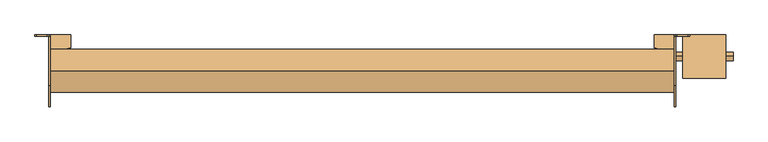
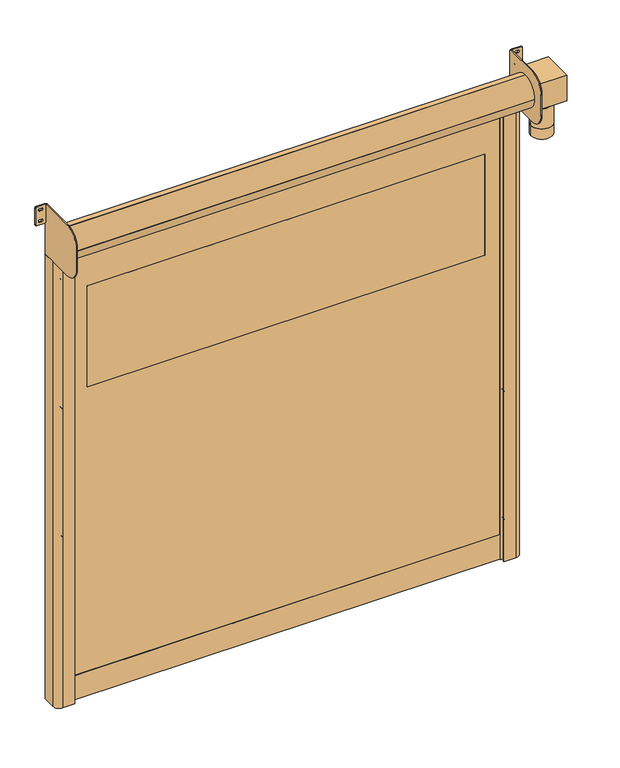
"""IFC4 building model written with IfcOpenShell, lengths in millimetres: door geometry, DO_WPB_Dynamicroll_BMP : Dynamicroll One."""

from ifc_helpers import new_model, si_unit, point, frame, frame_2d, origin, origin_with_axes, place, context, project, spatial, polyline, circle_curve, trimmed, segment, composite_curve, outline, extrude, source, transform, mapped, element, save
from ifc_brep_helpers import plane_surface, cylinder_surface, advanced_brep


def door_f3b390bc(model_context):
    return source(origin(), model_context, "Body", "SolidModel", [
        extrude(outline(composite_curve([segment(trimmed(circle_curve(frame_2d((1416.6666667, 1024.0)), 6.0), [point((1422.6666667, 1024.0))], [point((1410.6666667, 1024.0))], False, "CARTESIAN"), True, "CONTINUOUS"), segment(polyline([(1410.6666667, 1024.0), (1410.6666667, 1042.0)]), True, "CONTINUOUS"), segment(trimmed(circle_curve(frame_2d((1416.6666667, 1042.0)), 6.0), [point((1410.6666667, 1042.0))], [point((1422.6666667, 1042.0))], False, "CARTESIAN"), True, "CONTINUOUS"), segment(polyline([(1422.6666667, 1042.0), (1422.6666667, 1024.0)]), True, "CONTINUOUS")], self_intersect=False)), frame((0.0, -20.0, 0.0), z_axis=(0.0, 1.0, 0.0), x_axis=(0.0, 0.0, 1.0)), (0.0, 0.0, 1.0), 20.0),
        extrude(outline(composite_curve([segment(trimmed(circle_curve(frame_2d((783.3333333, 1024.0)), 6.0), [point((789.3333333, 1024.0))], [point((777.3333333, 1024.0))], False, "CARTESIAN"), True, "CONTINUOUS"), segment(polyline([(777.3333333, 1024.0), (777.3333333, 1042.0)]), True, "CONTINUOUS"), segment(trimmed(circle_curve(frame_2d((783.3333333, 1042.0)), 6.0), [point((777.3333333, 1042.0))], [point((789.3333333, 1042.0))], False, "CARTESIAN"), True, "CONTINUOUS"), segment(polyline([(789.3333333, 1042.0), (789.3333333, 1024.0)]), True, "CONTINUOUS")], self_intersect=False)), frame((0.0, -20.0, 0.0), z_axis=(0.0, 1.0, 0.0), x_axis=(0.0, 0.0, 1.0)), (0.0, 0.0, 1.0), 20.0),
        extrude(outline(composite_curve([segment(trimmed(circle_curve(frame_2d((2050.0, 1024.0)), 6.0), [point((2056.0, 1024.0))], [point((2044.0, 1024.0))], False, "CARTESIAN"), True, "CONTINUOUS"), segment(polyline([(2044.0, 1024.0), (2044.0, 1042.0)]), True, "CONTINUOUS"), segment(trimmed(circle_curve(frame_2d((2050.0, 1042.0)), 6.0), [point((2044.0, 1042.0))], [point((2056.0, 1042.0))], False, "CARTESIAN"), True, "CONTINUOUS"), segment(polyline([(2056.0, 1042.0), (2056.0, 1024.0)]), True, "CONTINUOUS")], self_intersect=False)), frame((0.0, -20.0, 0.0), z_axis=(0.0, 1.0, 0.0), x_axis=(0.0, 0.0, 1.0)), (0.0, 0.0, 1.0), 20.0),
        extrude(outline(composite_curve([segment(trimmed(circle_curve(frame_2d((150.0, 1024.0)), 6.0), [point((156.0, 1024.0))], [point((144.0, 1024.0))], False, "CARTESIAN"), True, "CONTINUOUS"), segment(polyline([(144.0, 1024.0), (144.0, 1042.0)]), True, "CONTINUOUS"), segment(trimmed(circle_curve(frame_2d((150.0, 1042.0)), 6.0), [point((144.0, 1042.0))], [point((156.0, 1042.0))], False, "CARTESIAN"), True, "CONTINUOUS"), segment(polyline([(156.0, 1042.0), (156.0, 1024.0)]), True, "CONTINUOUS")], self_intersect=False)), frame((0.0, -20.0, 0.0), z_axis=(0.0, 1.0, 0.0), x_axis=(0.0, 0.0, 1.0)), (0.0, 0.0, 1.0), 20.0),
        extrude(outline(composite_curve([segment(polyline([(1422.6666667, -1024.0), (1422.6666667, -1042.0)]), True, "CONTINUOUS"), segment(trimmed(circle_curve(frame_2d((1416.6666667, -1042.0)), 6.0), [point((1422.6666667, -1042.0))], [point((1410.6666667, -1042.0))], False, "CARTESIAN"), True, "CONTINUOUS"), segment(polyline([(1410.6666667, -1042.0), (1410.6666667, -1024.0)]), True, "CONTINUOUS"), segment(trimmed(circle_curve(frame_2d((1416.6666667, -1024.0)), 6.0), [point((1410.6666667, -1024.0))], [point((1422.6666667, -1024.0))], False, "CARTESIAN"), True, "CONTINUOUS")], self_intersect=False)), frame((0.0, -20.0, 0.0), z_axis=(0.0, 1.0, 0.0), x_axis=(0.0, 0.0, 1.0)), (0.0, 0.0, 1.0), 20.0),
        extrude(outline(composite_curve([segment(polyline([(789.3333333, -1024.0), (789.3333333, -1042.0)]), True, "CONTINUOUS"), segment(trimmed(circle_curve(frame_2d((783.3333333, -1042.0)), 6.0), [point((789.3333333, -1042.0))], [point((777.3333333, -1042.0))], False, "CARTESIAN"), True, "CONTINUOUS"), segment(polyline([(777.3333333, -1042.0), (777.3333333, -1024.0)]), True, "CONTINUOUS"), segment(trimmed(circle_curve(frame_2d((783.3333333, -1024.0)), 6.0), [point((777.3333333, -1024.0))], [point((789.3333333, -1024.0))], False, "CARTESIAN"), True, "CONTINUOUS")], self_intersect=False)), frame((0.0, -20.0, 0.0), z_axis=(0.0, 1.0, 0.0), x_axis=(0.0, 0.0, 1.0)), (0.0, 0.0, 1.0), 20.0),
        extrude(outline(composite_curve([segment(polyline([(2056.0, -1024.0), (2056.0, -1042.0)]), True, "CONTINUOUS"), segment(trimmed(circle_curve(frame_2d((2050.0, -1042.0)), 6.0), [point((2056.0, -1042.0))], [point((2044.0, -1042.0))], False, "CARTESIAN"), True, "CONTINUOUS"), segment(polyline([(2044.0, -1042.0), (2044.0, -1024.0)]), True, "CONTINUOUS"), segment(trimmed(circle_curve(frame_2d((2050.0, -1024.0)), 6.0), [point((2044.0, -1024.0))], [point((2056.0, -1024.0))], False, "CARTESIAN"), True, "CONTINUOUS")], self_intersect=False)), frame((0.0, -20.0, 0.0), z_axis=(0.0, 1.0, 0.0), x_axis=(0.0, 0.0, 1.0)), (0.0, 0.0, 1.0), 20.0),
        extrude(outline(composite_curve([segment(polyline([(156.0, -1024.0), (156.0, -1042.0)]), True, "CONTINUOUS"), segment(trimmed(circle_curve(frame_2d((150.0, -1042.0)), 6.0), [point((156.0, -1042.0))], [point((144.0, -1042.0))], False, "CARTESIAN"), True, "CONTINUOUS"), segment(polyline([(144.0, -1042.0), (144.0, -1024.0)]), True, "CONTINUOUS"), segment(trimmed(circle_curve(frame_2d((150.0, -1024.0)), 6.0), [point((144.0, -1024.0))], [point((156.0, -1024.0))], False, "CARTESIAN"), True, "CONTINUOUS")], self_intersect=False)), frame((0.0, -20.0, 0.0), z_axis=(0.0, 1.0, 0.0), x_axis=(0.0, 0.0, 1.0)), (0.0, 0.0, 1.0), 20.0),
        extrude(outline(composite_curve([segment(trimmed(circle_curve(frame_2d((1526.0, 929.0)), 1.0), [point((1525.0, 929.0))], [point((1526.0, 930.0))], False, "CARTESIAN"), True, "CONTINUOUS"), segment(polyline([(1526.0, 930.0), (2024.0, 930.0)]), True, "CONTINUOUS"), segment(trimmed(circle_curve(frame_2d((2024.0, 929.0)), 1.0), [point((2024.0, 930.0))], [point((2025.0, 929.0))], False, "CARTESIAN"), True, "CONTINUOUS"), segment(polyline([(2025.0, 929.0), (2025.0, -929.0)]), True, "CONTINUOUS"), segment(trimmed(circle_curve(frame_2d((2024.0, -929.0)), 1.0), [point((2025.0, -929.0))], [point((2024.0, -930.0))], False, "CARTESIAN"), True, "CONTINUOUS"), segment(polyline([(2024.0, -930.0), (1526.0, -930.0)]), True, "CONTINUOUS"), segment(trimmed(circle_curve(frame_2d((1526.0, -929.0)), 1.0), [point((1526.0, -930.0))], [point((1525.0, -929.0))], False, "CARTESIAN"), True, "CONTINUOUS"), segment(polyline([(1525.0, -929.0), (1525.0, 929.0)]), True, "CONTINUOUS")], self_intersect=False)), frame((0.0, -63.5, 0.0), z_axis=(0.0, 1.0, 0.0), x_axis=(0.0, 0.0, 1.0)), (0.0, 0.0, 1.0), 7.0),
        extrude(outline(polyline([(120.0, -1012.0), (120.0, 1012.0), (2325.0, 1012.0), (2325.0, -1012.0), (120.0, -1012.0)]), holes=[composite_curve([segment(trimmed(circle_curve(frame_2d((1526.0, 929.0)), 1.0), [point((1526.0, 930.0))], [point((1525.0, 929.0))], True, "CARTESIAN"), True, "CONTINUOUS"), segment(polyline([(1525.0, 929.0), (1525.0, -929.0)]), True, "CONTINUOUS"), segment(trimmed(circle_curve(frame_2d((1526.0, -929.0)), 1.0), [point((1525.0, -929.0))], [point((1526.0, -930.0))], True, "CARTESIAN"), True, "CONTINUOUS"), segment(polyline([(1526.0, -930.0), (2024.0, -930.0)]), True, "CONTINUOUS"), segment(trimmed(circle_curve(frame_2d((2024.0, -929.0)), 1.0), [point((2024.0, -930.0))], [point((2025.0, -929.0))], True, "CARTESIAN"), True, "CONTINUOUS"), segment(polyline([(2025.0, -929.0), (2025.0, 929.0)]), True, "CONTINUOUS"), segment(trimmed(circle_curve(frame_2d((2024.0, 929.0)), 1.0), [point((2025.0, 929.0))], [point((2024.0, 930.0))], True, "CARTESIAN"), True, "CONTINUOUS"), segment(polyline([(2024.0, 930.0), (1526.0, 930.0)]), True, "CONTINUOUS")], self_intersect=False)]), frame((0.0, -63.5, 0.0), z_axis=(0.0, 1.0, 0.0), x_axis=(0.0, 0.0, 1.0)), (0.0, 0.0, 1.0), 7.0),
        extrude(outline(polyline([(-1012.0, -54.5), (1012.0, -54.5), (1012.0, -65.5), (-1012.0, -65.5), (-1012.0, -54.5)])), origin_with_axes(), (0.0, 0.0, 1.0), 120.0),
        extrude(outline(composite_curve([segment(trimmed(circle_curve(frame_2d((2363.75, 1095.75)), 5.75), [point((2363.75, 1090.0))], [point((2358.0, 1095.75))], False, "CARTESIAN"), True, "CONTINUOUS"), segment(polyline([(2358.0, 1095.75), (2358.0, 1133.25)]), True, "CONTINUOUS"), segment(trimmed(circle_curve(frame_2d((2363.75, 1133.25)), 5.75), [point((2358.0, 1133.25))], [point((2363.75, 1139.0))], False, "CARTESIAN"), True, "CONTINUOUS"), segment(polyline([(2363.75, 1139.0), (2444.25, 1139.0)]), True, "CONTINUOUS"), segment(trimmed(circle_curve(frame_2d((2444.25, 1133.25)), 5.75), [point((2444.25, 1139.0))], [point((2450.0, 1133.25))], False, "CARTESIAN"), True, "CONTINUOUS"), segment(polyline([(2450.0, 1133.25), (2450.0, 1095.75)]), True, "CONTINUOUS"), segment(trimmed(circle_curve(frame_2d((2444.25, 1095.75)), 5.75), [point((2450.0, 1095.75))], [point((2444.25, 1090.0))], False, "CARTESIAN"), True, "CONTINUOUS"), segment(polyline([(2444.25, 1090.0), (2363.75, 1090.0)]), True, "CONTINUOUS")], self_intersect=False), holes=[composite_curve([segment(trimmed(circle_curve(frame_2d((2431.5, 1118.75)), 5.75), [point((2437.25, 1118.75))], [point((2425.75, 1118.75))], True, "CARTESIAN"), True, "CONTINUOUS"), segment(polyline([(2425.75, 1118.75), (2425.75, 1110.25)]), True, "CONTINUOUS"), segment(trimmed(circle_curve(frame_2d((2431.5, 1110.25)), 5.75), [point((2425.75, 1110.25))], [point((2437.25, 1110.25))], True, "CARTESIAN"), True, "CONTINUOUS"), segment(polyline([(2437.25, 1110.25), (2437.25, 1118.75)]), True, "CONTINUOUS")], self_intersect=False), composite_curve([segment(trimmed(circle_curve(frame_2d((2376.5, 1118.75)), 5.75), [point((2382.25, 1118.75))], [point((2370.75, 1118.75))], True, "CARTESIAN"), True, "CONTINUOUS"), segment(polyline([(2370.75, 1118.75), (2370.75, 1110.25)]), True, "CONTINUOUS"), segment(trimmed(circle_curve(frame_2d((2376.5, 1110.25)), 5.75), [point((2370.75, 1110.25))], [point((2382.25, 1110.25))], True, "CARTESIAN"), True, "CONTINUOUS"), segment(polyline([(2382.25, 1110.25), (2382.25, 1118.75)]), True, "CONTINUOUS")], self_intersect=False)]), frame((0.0, -5.0, 0.0), z_axis=(0.0, 1.0, 0.0), x_axis=(0.0, 0.0, 1.0)), (0.0, 0.0, 1.0), 5.0),
        extrude(outline(composite_curve([segment(trimmed(circle_curve(frame_2d((2363.75, -1133.25)), 5.75), [point((2363.75, -1139.0))], [point((2358.0, -1133.25))], False, "CARTESIAN"), True, "CONTINUOUS"), segment(polyline([(2358.0, -1133.25), (2358.0, -1095.75)]), True, "CONTINUOUS"), segment(trimmed(circle_curve(frame_2d((2363.75, -1095.75)), 5.75), [point((2358.0, -1095.75))], [point((2363.75, -1090.0))], False, "CARTESIAN"), True, "CONTINUOUS"), segment(polyline([(2363.75, -1090.0), (2444.25, -1090.0)]), True, "CONTINUOUS"), segment(trimmed(circle_curve(frame_2d((2444.25, -1095.75)), 5.75), [point((2444.25, -1090.0))], [point((2450.0, -1095.75))], False, "CARTESIAN"), True, "CONTINUOUS"), segment(polyline([(2450.0, -1095.75), (2450.0, -1133.25)]), True, "CONTINUOUS"), segment(trimmed(circle_curve(frame_2d((2444.25, -1133.25)), 5.75), [point((2450.0, -1133.25))], [point((2444.25, -1139.0))], False, "CARTESIAN"), True, "CONTINUOUS"), segment(polyline([(2444.25, -1139.0), (2363.75, -1139.0)]), True, "CONTINUOUS")], self_intersect=False), holes=[composite_curve([segment(trimmed(circle_curve(frame_2d((2431.5, -1110.25)), 5.75), [point((2437.25, -1110.25))], [point((2425.75, -1110.25))], True, "CARTESIAN"), True, "CONTINUOUS"), segment(polyline([(2425.75, -1110.25), (2425.75, -1118.75)]), True, "CONTINUOUS"), segment(trimmed(circle_curve(frame_2d((2431.5, -1118.75)), 5.75), [point((2425.75, -1118.75))], [point((2437.25, -1118.75))], True, "CARTESIAN"), True, "CONTINUOUS"), segment(polyline([(2437.25, -1118.75), (2437.25, -1110.25)]), True, "CONTINUOUS")], self_intersect=False), composite_curve([segment(trimmed(circle_curve(frame_2d((2376.5, -1110.25)), 5.75), [point((2382.25, -1110.25))], [point((2370.75, -1110.25))], True, "CARTESIAN"), True, "CONTINUOUS"), segment(polyline([(2370.75, -1110.25), (2370.75, -1118.75)]), True, "CONTINUOUS"), segment(trimmed(circle_curve(frame_2d((2376.5, -1118.75)), 5.75), [point((2370.75, -1118.75))], [point((2382.25, -1118.75))], True, "CARTESIAN"), True, "CONTINUOUS"), segment(polyline([(2382.25, -1118.75), (2382.25, -1110.25)]), True, "CONTINUOUS")], self_intersect=False)]), frame((0.0, -5.0, 0.0), z_axis=(0.0, 1.0, 0.0), x_axis=(0.0, 0.0, 1.0)), (0.0, 0.0, 1.0), 5.0),
        extrude(outline(composite_curve([segment(trimmed(circle_curve(frame_2d((1190.0, -75.0)), 37.5), [point((1227.5, -75.0))], [point((1152.5, -75.0))], False, "CARTESIAN"), True, "CONTINUOUS"), segment(trimmed(circle_curve(frame_2d((1190.0, -75.0)), 37.5), [point((1152.5, -75.0))], [point((1227.5, -75.0))], False, "CARTESIAN"), True, "CONTINUOUS")], self_intersect=False)), frame((0.0, 0.0, 2200.0), z_axis=(0.0, 0.0, 1.0), x_axis=(1.0, 0.0, 0.0)), (0.0, 0.0, 1.0), 25.0),
        extrude(outline(composite_curve([segment(trimmed(circle_curve(frame_2d((1190.0, -75.0)), 50.0), [point((1240.0, -75.0))], [point((1140.0, -75.0))], False, "CARTESIAN"), True, "CONTINUOUS"), segment(trimmed(circle_curve(frame_2d((1190.0, -75.0)), 50.0), [point((1140.0, -75.0))], [point((1240.0, -75.0))], False, "CARTESIAN"), True, "CONTINUOUS")], self_intersect=False)), frame((0.0, 0.0, 2100.0), z_axis=(0.0, 0.0, 1.0), x_axis=(1.0, 0.0, 0.0)), (0.0, 0.0, 1.0), 100.0),
        extrude(outline(composite_curve([segment(trimmed(circle_curve(frame_2d((1190.0, -75.0)), 50.0), [point((1240.0, -75.0))], [point((1140.0, -75.0))], False, "CARTESIAN"), True, "CONTINUOUS"), segment(trimmed(circle_curve(frame_2d((1190.0, -75.0)), 50.0), [point((1140.0, -75.0))], [point((1240.0, -75.0))], False, "CARTESIAN"), True, "CONTINUOUS")], self_intersect=False)), frame((0.0, 0.0, 2050.0), z_axis=(0.0, 0.0, 1.0), x_axis=(1.0, 0.0, 0.0)), (0.0, 0.0, 1.0), 50.0),
        extrude(outline(composite_curve([segment(polyline([(-1090.0, 0.0), (-1015.0, 0.0), (-1015.0, -44.2857143), (-1035.0, -50.0), (-1000.0, -50.0), (-1000.0, -56.5), (-1020.0, -56.5), (-1020.0, -63.5), (-1000.0, -63.5), (-1000.0, -70.0), (-1035.0, -70.0), (-1035.0, -85.0), (-1005.0, -85.0), (-1005.0, -90.0), (-1060.0, -90.0)]), True, "CONTINUOUS"), segment(trimmed(circle_curve(frame_2d((-1060.0, -60.0)), 30.0), [point((-1060.0, -90.0))], [point((-1090.0, -60.0))], False, "CARTESIAN"), True, "CONTINUOUS"), segment(polyline([(-1090.0, -60.0), (-1090.0, 0.0)]), True, "CONTINUOUS")], self_intersect=False)), origin_with_axes(), (0.0, 0.0, 1.0), 2200.0),
        extrude(outline(composite_curve([segment(polyline([(1090.0, 0.0), (1090.0, -60.0)]), True, "CONTINUOUS"), segment(trimmed(circle_curve(frame_2d((1060.0, -60.0)), 30.0), [point((1090.0, -60.0))], [point((1060.0, -90.0))], False, "CARTESIAN"), True, "CONTINUOUS"), segment(polyline([(1060.0, -90.0), (1005.0, -90.0), (1005.0, -85.0), (1035.0, -85.0), (1035.0, -70.0), (1000.0, -70.0), (1000.0, -63.5), (1020.0, -63.5), (1020.0, -56.5), (1000.0, -56.5), (1000.0, -50.0), (1035.0, -50.0), (1015.0, -44.2857143), (1015.0, 0.0), (1090.0, 0.0)]), True, "CONTINUOUS")], self_intersect=False)), origin_with_axes(), (0.0, 0.0, 1.0), 2200.0),
        advanced_brep(
        [(1115.0, -150.0, 2350.0), (1265.0, -150.0, 2350.0), (1265.0, 0.0, 2350.0), (1115.0, 0.0, 2350.0), (1115.0, -150.0, 2225.0), (1265.0, -150.0, 2225.0), (1265.0, 0.0, 2225.0), (1265.0, -75.0, 2272.5), (1265.0, -75.0, 2302.5), (1115.0, 0.0, 2225.0), (1115.0, -75.0, 2302.5), (1115.0, -75.0, 2272.5), (1090.0, -75.0, 2272.5), (1090.0, -75.0, 2302.5), (1290.0, -75.0, 2272.5), (1290.0, -75.0, 2302.5)],
        [
            (0, 1),
            (1, 2),
            (2, 3),
            (3, 0),
            (4, 5),
            (5, 1),
            (0, 4),
            (5, 6),
            (6, 2),
            (7, 8, circle_curve(frame((1265.0, -75.0, 2287.5), z_axis=(-1.0, 0.0, 0.0), x_axis=(0.0, 0.0, 1.0)), 15.0)),
            (8, 7, circle_curve(frame((1265.0, -75.0, 2287.5), z_axis=(-1.0, 0.0, 0.0), x_axis=(0.0, 0.0, 1.0)), 15.0)),
            (6, 9),
            (9, 3),
            (9, 4),
            (10, 11, circle_curve(frame((1115.0, -75.0, 2287.5), z_axis=(1.0, 0.0, 0.0), x_axis=(0.0, 0.0, 1.0)), 15.0)),
            (11, 10, circle_curve(frame((1115.0, -75.0, 2287.5), z_axis=(1.0, 0.0, 0.0), x_axis=(0.0, 0.0, 1.0)), 15.0)),
            (12, 13, circle_curve(frame((1090.0, -75.0, 2287.5), z_axis=(-1.0, 0.0, 0.0), x_axis=(0.0, 0.0, 1.0)), 15.0)),
            (13, 12, circle_curve(frame((1090.0, -75.0, 2287.5), z_axis=(-1.0, 0.0, 0.0), x_axis=(0.0, 0.0, 1.0)), 15.0)),
            (12, 11),
            (10, 13),
            (14, 15, circle_curve(frame((1290.0, -75.0, 2287.5), z_axis=(-1.0, 0.0, 0.0), x_axis=(0.0, 0.0, 1.0)), 15.0)),
            (15, 8),
            (7, 14),
            (15, 14, circle_curve(frame((1290.0, -75.0, 2287.5), z_axis=(-1.0, 0.0, 0.0), x_axis=(0.0, 0.0, 1.0)), 15.0)),
        ],
        [
            plane_surface(frame((1190.0, 0.0, 2350.0), z_axis=(0.0, 0.0, 1.0), x_axis=(0.0, -1.0, 0.0))),
            plane_surface(frame((1265.0, -150.0, 2225.0), z_axis=(0.0, -1.0, 0.0), x_axis=(0.0, 0.0, 1.0))),
            plane_surface(frame((1265.0, 0.0, 2225.0), z_axis=(1.0, 0.0, 0.0), x_axis=(0.0, 0.0, 1.0))),
            plane_surface(frame((1115.0, 0.0, 2225.0), z_axis=(0.0, 1.0, 0.0), x_axis=(0.0, 0.0, 1.0))),
            plane_surface(frame((1115.0, -150.0, 2225.0), z_axis=(-1.0, 0.0, 0.0), x_axis=(0.0, 0.0, 1.0))),
            plane_surface(frame((1190.0, 0.0, 2225.0), z_axis=(0.0, 0.0, -1.0), x_axis=(0.0, -1.0, 0.0))),
            plane_surface(frame((1090.0, 0.0, 2287.5), z_axis=(-1.0, 0.0, 0.0), x_axis=(0.0, -1.0, 0.0))),
            cylinder_surface(frame((1090.0, -75.0, 2287.5), z_axis=(-1.0, 0.0, 0.0), x_axis=(0.0, 0.0, 1.0)), 15.0),
            plane_surface(frame((1290.0, 0.0, 2287.5), z_axis=(1.0, 0.0, 0.0), x_axis=(0.0, -1.0, 0.0))),
        ],
        [
            (0, [[1, 2, 3, 4]]),
            (1, [[5, 6, -1, 7]]),
            (2, [[8, 9, -2, -6], [10, 11]]),
            (3, [[12, 13, -3, -9]]),
            (4, [[14, -7, -4, -13], [15, 16]]),
            (5, [[-14, -12, -8, -5]]),
            (6, [[17, 18]]),
            (7, [[-17, 19, -15, 20]]),
            (7, [[21, 22, -10, 23]]),
            (7, [[-18, -20, -16, -19]]),
            (7, [[24, -23, -11, -22]]),
            (8, [[-24, -21]]),
        ],
    ),
        extrude(outline(composite_curve([segment(trimmed(circle_curve(frame_2d((-5.0, 2205.0)), 5.0), [point((0.0, 2205.0))], [point((-5.0, 2200.0))], False, "CARTESIAN"), True, "CONTINUOUS"), segment(polyline([(-5.0, 2200.0), (-175.0, 2200.0)]), True, "CONTINUOUS"), segment(trimmed(circle_curve(frame_2d((-175.0, 2275.0)), 75.0), [point((-175.0, 2200.0))], [point((-250.0, 2275.0))], False, "CARTESIAN"), True, "CONTINUOUS"), segment(polyline([(-250.0, 2275.0), (-250.0, 2375.0)]), True, "CONTINUOUS"), segment(trimmed(circle_curve(frame_2d((-175.0, 2375.0)), 75.0), [point((-250.0, 2375.0))], [point((-175.0, 2450.0))], False, "CARTESIAN"), True, "CONTINUOUS"), segment(polyline([(-175.0, 2450.0), (-5.0, 2450.0)]), True, "CONTINUOUS"), segment(trimmed(circle_curve(frame_2d((-5.0, 2445.0)), 5.0), [point((-5.0, 2450.0))], [point((0.0, 2445.0))], False, "CARTESIAN"), True, "CONTINUOUS"), segment(polyline([(0.0, 2445.0), (0.0, 2205.0)]), True, "CONTINUOUS")], self_intersect=False)), frame((1085.0, 0.0, 0.0), z_axis=(1.0, 0.0, 0.0), x_axis=(0.0, 1.0, 0.0)), (0.0, 0.0, 1.0), 5.0),
        extrude(outline(composite_curve([segment(trimmed(circle_curve(frame_2d((-124.0, 2324.0)), 74.0), [point((-50.0, 2324.0))], [point((-124.0, 2250.0))], False, "CARTESIAN"), True, "CONTINUOUS"), segment(polyline([(-124.0, 2250.0), (-126.0, 2250.0)]), True, "CONTINUOUS"), segment(trimmed(circle_curve(frame_2d((-126.0, 2324.0)), 74.0), [point((-126.0, 2250.0))], [point((-200.0, 2324.0))], False, "CARTESIAN"), True, "CONTINUOUS"), segment(polyline([(-200.0, 2324.0), (-200.0, 2326.0)]), True, "CONTINUOUS"), segment(trimmed(circle_curve(frame_2d((-126.0, 2326.0)), 74.0), [point((-200.0, 2326.0))], [point((-126.0, 2400.0))], False, "CARTESIAN"), True, "CONTINUOUS"), segment(polyline([(-126.0, 2400.0), (-124.0, 2400.0)]), True, "CONTINUOUS"), segment(trimmed(circle_curve(frame_2d((-124.0, 2326.0)), 74.0), [point((-124.0, 2400.0))], [point((-50.0, 2326.0))], False, "CARTESIAN"), True, "CONTINUOUS"), segment(polyline([(-50.0, 2326.0), (-50.0, 2324.0)]), True, "CONTINUOUS")], self_intersect=False)), frame((-1085.0, 0.0, 0.0), z_axis=(1.0, 0.0, 0.0), x_axis=(0.0, 1.0, 0.0)), (0.0, 0.0, 1.0), 2170.0),
        extrude(outline(composite_curve([segment(trimmed(circle_curve(frame_2d((-5.0, 2205.0)), 5.0), [point((0.0, 2205.0))], [point((-5.0, 2200.0))], False, "CARTESIAN"), True, "CONTINUOUS"), segment(polyline([(-5.0, 2200.0), (-175.0, 2200.0)]), True, "CONTINUOUS"), segment(trimmed(circle_curve(frame_2d((-175.0, 2275.0)), 75.0), [point((-175.0, 2200.0))], [point((-250.0, 2275.0))], False, "CARTESIAN"), True, "CONTINUOUS"), segment(polyline([(-250.0, 2275.0), (-250.0, 2375.0)]), True, "CONTINUOUS"), segment(trimmed(circle_curve(frame_2d((-175.0, 2375.0)), 75.0), [point((-250.0, 2375.0))], [point((-175.0, 2450.0))], False, "CARTESIAN"), True, "CONTINUOUS"), segment(polyline([(-175.0, 2450.0), (-5.0, 2450.0)]), True, "CONTINUOUS"), segment(trimmed(circle_curve(frame_2d((-5.0, 2445.0)), 5.0), [point((-5.0, 2450.0))], [point((0.0, 2445.0))], False, "CARTESIAN"), True, "CONTINUOUS"), segment(polyline([(0.0, 2445.0), (0.0, 2205.0)]), True, "CONTINUOUS")], self_intersect=False)), frame((-1090.0, 0.0, 0.0), z_axis=(1.0, 0.0, 0.0), x_axis=(0.0, 1.0, 0.0)), (0.0, 0.0, 1.0), 5.0),
    ])


if __name__ == "__main__":
    model = new_model("IFC4")
    model_context = context("Model", 3, world=origin())
    ifc_project = project(units=[si_unit("LENGTHUNIT", "METRE", prefix="MILLI")], contexts=[model_context])
    site = spatial("IfcSite", under=ifc_project)
    building = spatial("IfcBuilding", under=site)
    placement = place(None, origin())
    door_shape = door_f3b390bc(model_context)
    element("IfcDoor", 1, ObjectType="DO_WPB_Dynamicroll_BMP : Dynamicroll One", at=placement, inside=building, context=model_context, shape_type="MappedRepresentation", body=[
        mapped(door_shape, transform((0.0, 0.0, 0.0), x_axis=(1.0, 0.0, 0.0), y_axis=(0.0, 1.0, 0.0), z_axis=(0.0, 0.0, 1.0))),
    ])
    save(model, "model.ifc")
